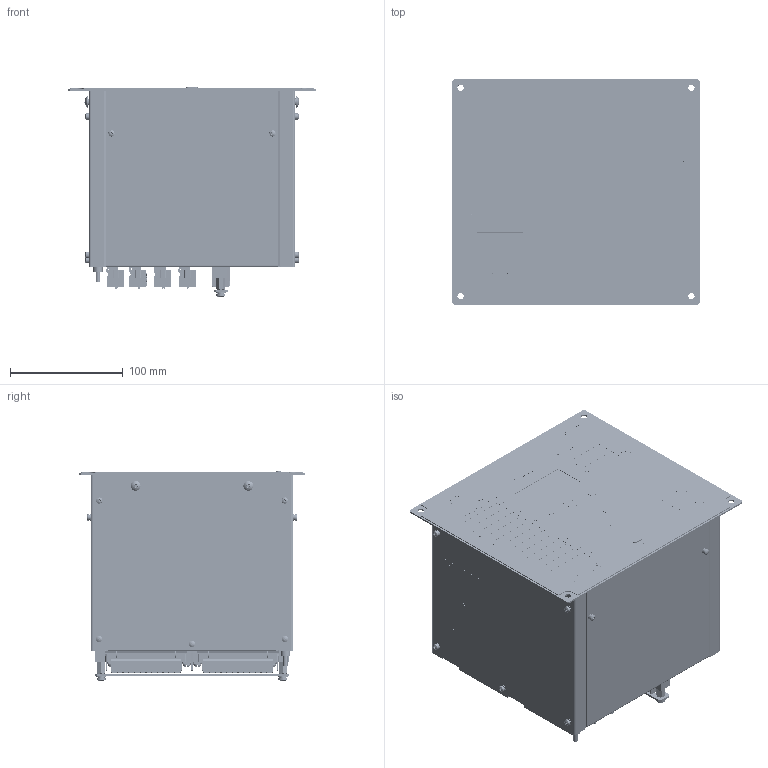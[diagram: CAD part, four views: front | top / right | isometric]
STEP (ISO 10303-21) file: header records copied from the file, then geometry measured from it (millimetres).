
FILE_DESCRIPTION(('STEP AP214'), '1');
FILE_NAME('ﾒﾐﾁﾍ.656122.011-20_26_27_28_76_77 - ﾊﾈﾒ-ﾐ-ﾀ', '', ('UNSPECIFIED'), ('UNSPECIFIED'), 'C3D Converter', 'C3D Toolkit', '');
FILE_SCHEMA(('AUTOMOTIVE_DESIGN { 1 0 10303 214 3 1 1}'));
Length unit declared in the file: millimetre
Products named in the file (83): ТРБН.656122.001-20_26_27_28_76_77; ТРБН.741128.001; ТРБН.745222.001; ТРБН.301732.001; ТРБН.745422.001; ТРБН.301261.011-20; ТРБН.745512.011-20; ТРБН.434416.011; ТРБН.754342.001; ТРБН.754342.002; ТРБН.434416.012; ТРБН.754342.002-01; ТРБН.434416.013; ТРБН.754342.002-02; ТРБН.434416.014; ТРБН.754342.001-01; ТРБН.754342.002-05; ТРБН.434416.015; ТРБН.754342.002-06; ТРБН.741134.002; ТРБН.754312.001; ТРБН.754342.006; 45H-08P; 45H-08P-01; 691317510004; 6913175100xx_PIN; 6913175100xx_INSERT; 2EDGRHM-5.08-24P-14-00A(H); ТРБН.434416.016; ТРБН.754342.002-07; ТРБН.434416.017; ТРБН.754342.002-08; 691317510012; ТРБН.434416.018; ТРБН.754342.002-03; ТРБН.434416.019; ТРБН.754342.002-04; X1; 615008185121_(rev1); 615008185x21_Housing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
Assembly tree (169 placements, depth 4):
  ТРБН.656122.001-20_26_27_28_76_77
    (unnamed)
      ТРБН.741128.001
      ТРБН.745222.001  x2
    ТРБН.301732.001  x2
      ТРБН.745422.001
      (unnamed)
      (unnamed)
    ТРБН.301261.011-20
      ТРБН.745512.011-20
      (unnamed)  x2
      (unnamed)
    (unnamed)  x2
    (unnamed)
    (unnamed)
    (unnamed)  x10
    (unnamed)
    (unnamed)  x3
    (unnamed)  x12
    (unnamed)  x2
    (unnamed)  x2
    (unnamed)  x4
    (unnamed)  x2
    ТРБН.434416.011
      (unnamed)
      ТРБН.754342.001
      ТРБН.754342.002
    ТРБН.434416.012
      (unnamed)
      ТРБН.754342.001
      ТРБН.754342.002-01
    ТРБН.434416.013
      (unnamed)
      ТРБН.754342.001
      ТРБН.754342.002-02
    ТРБН.434416.014
      (unnamed)
      ТРБН.754342.001-01
      ТРБН.754342.002-05
    ТРБН.434416.015
      (unnamed)
      ТРБН.754342.001-01
      ТРБН.754342.002-06
    ТРБН.741134.002
    ТРБН.754312.001
    (unnamed)
    (unnamed)
    (unnamed)
    (unnamed)
    ТРБН.754342.006
    (unnamed)
    (unnamed)
    (unnamed)  x10
    (unnamed)  x2
    (unnamed)
    (unnamed)
      45H-08P
      45H-08P-01
    (unnamed)  x2
    (unnamed)  x3
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Bounding box: 220 x 200 x 187.02 mm (x, y, z)
Volume: 487672.1 mm3; surface area: 688400.8 mm2
Topology: 314 solids, 332 shells, 42108 faces, 118559 edges, 78211 vertices
Faces by surface type: plane 25428, cylinder 12851, extrusion 2847, torus 536, bspline 224, cone 201, sphere 21
Full cylindrical faces by diameter (mm): 0.405 x8, 0.482 x8, 0.804 x1, 1.1 x4, 1.371 x1, 1.6 x8, 1.771 x1, 1.8 x18, 2.459 x6, 2.5 x18, 2.6 x20, 2.75 x36, 3 x14, 3.2 x22, 3.242 x3, 3.3 x84, 3.301 x16, 3.4 x8, 3.5 x78, 3.85 x18, 4 x92, 4.2 x6, 4.22 x6, 4.3 x2, 4.5 x9, 5 x6, 5.6 x20, 5.7 x4, 6 x15, 6.35 x6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
Entity records: 1264380 total; most frequent: CARTESIAN_POINT 243055, ORIENTED_EDGE 170192, DIRECTION 152314, EDGE_CURVE 85096, VECTOR 62968, LINE 60121, VERTEX_POINT 56575, AXIS2_PLACEMENT_3D 44673
